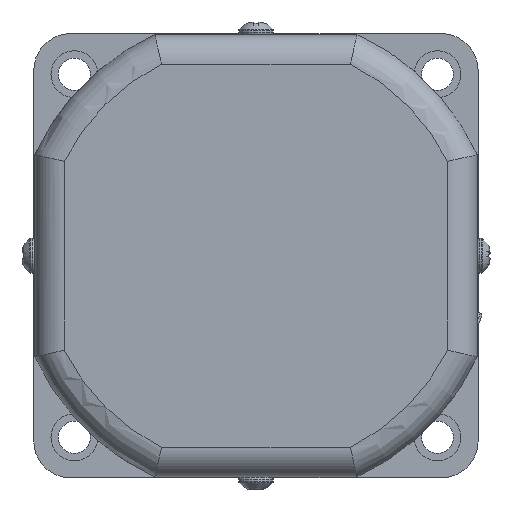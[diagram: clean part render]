
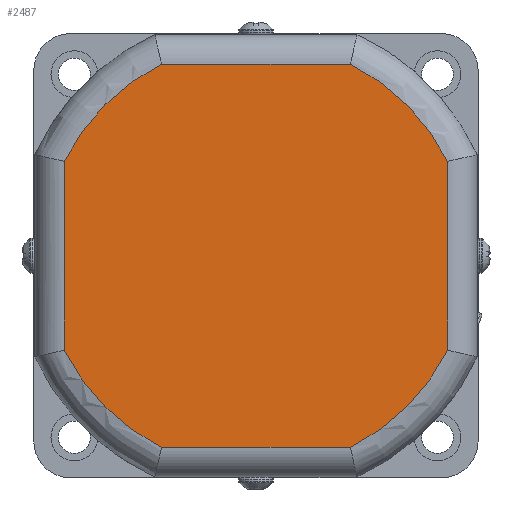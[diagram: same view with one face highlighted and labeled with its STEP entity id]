
A CAD part, left-side view. The second image highlights one B-rep face of the part: STEP entity #2487.
In plain terms, the highlighted planar face has unit normal (-1, 0, 0).
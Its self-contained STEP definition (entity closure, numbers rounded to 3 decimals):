
#2000=CARTESIAN_POINT('',(-23.,-19.108,-38.8));
#2001=VERTEX_POINT('',#2000);
#2028=CARTESIAN_POINT('',(-23.,-38.8,-19.108));
#2029=VERTEX_POINT('',#2028);
#2047=CARTESIAN_POINT('',(-23.,0.,0.));
#2048=DIRECTION('',(1.,0.,0.));
#2049=DIRECTION('',(0.,-0.707,-0.707));
#2050=AXIS2_PLACEMENT_3D('',#2047,#2048,#2049);
#2051=CIRCLE('',#2050,43.25);
#2052=EDGE_CURVE('',#2029,#2001,#2051,.T.);
#2064=CARTESIAN_POINT('',(-23.,-38.8,19.108));
#2065=VERTEX_POINT('',#2064);
#2083=CARTESIAN_POINT('',(-23.,-38.8,19.108));
#2084=DIRECTION('',(0.0,0.0,-1.0));
#2085=VECTOR('',#2084,38.216);
#2086=LINE('',#2083,#2085);
#2087=EDGE_CURVE('',#2065,#2029,#2086,.T.);
#2106=CARTESIAN_POINT('',(-23.,19.108,-38.8));
#2107=VERTEX_POINT('',#2106);
#2132=CARTESIAN_POINT('',(-23.,-19.108,-38.8));
#2133=DIRECTION('',(0.0,1.0,0.0));
#2134=VECTOR('',#2133,38.216);
#2135=LINE('',#2132,#2134);
#2136=EDGE_CURVE('',#2001,#2107,#2135,.T.);
#2148=CARTESIAN_POINT('',(-23.,-19.108,38.8));
#2149=VERTEX_POINT('',#2148);
#2167=CARTESIAN_POINT('',(-23.,0.,0.));
#2168=DIRECTION('',(1.,0.,0.));
#2169=DIRECTION('',(0.,-0.707,0.707));
#2170=AXIS2_PLACEMENT_3D('',#2167,#2168,#2169);
#2171=CIRCLE('',#2170,43.25);
#2172=EDGE_CURVE('',#2149,#2065,#2171,.T.);
#2192=CARTESIAN_POINT('',(-23.,38.8,-19.108));
#2193=VERTEX_POINT('',#2192);
#2219=CARTESIAN_POINT('',(-23.,0.,0.));
#2220=DIRECTION('',(1.0,0.,0.));
#2221=DIRECTION('',(0.,0.707,-0.707));
#2222=AXIS2_PLACEMENT_3D('',#2219,#2220,#2221);
#2223=CIRCLE('',#2222,43.25);
#2224=EDGE_CURVE('',#2107,#2193,#2223,.T.);
#2236=CARTESIAN_POINT('',(-23.,19.108,38.8));
#2237=VERTEX_POINT('',#2236);
#2255=CARTESIAN_POINT('',(-23.,19.108,38.8));
#2256=DIRECTION('',(0.0,-1.0,0.0));
#2257=VECTOR('',#2256,38.216);
#2258=LINE('',#2255,#2257);
#2259=EDGE_CURVE('',#2237,#2149,#2258,.T.);
#2276=CARTESIAN_POINT('',(-23.,38.8,19.108));
#2277=VERTEX_POINT('',#2276);
#2304=CARTESIAN_POINT('',(-23.,38.8,-19.108));
#2305=DIRECTION('',(0.0,0.0,1.0));
#2306=VECTOR('',#2305,38.216);
#2307=LINE('',#2304,#2306);
#2308=EDGE_CURVE('',#2193,#2277,#2307,.T.);
#2319=CARTESIAN_POINT('',(-23.,0.,0.));
#2320=DIRECTION('',(1.0,0.,0.));
#2321=DIRECTION('',(0.,0.707,0.707));
#2322=AXIS2_PLACEMENT_3D('',#2319,#2320,#2321);
#2323=CIRCLE('',#2322,43.25);
#2324=EDGE_CURVE('',#2277,#2237,#2323,.T.);
#2472=CARTESIAN_POINT('',(-23.,0.,0.));
#2473=DIRECTION('',(1.0,0.0,0.0));
#2474=DIRECTION('',(0.0,0.0,-1.0));
#2475=AXIS2_PLACEMENT_3D('',#2472,#2473,#2474);
#2476=PLANE('',#2475);
#2477=ORIENTED_EDGE('',*,*,#2308,.F.);
#2478=ORIENTED_EDGE('',*,*,#2224,.F.);
#2479=ORIENTED_EDGE('',*,*,#2136,.F.);
#2480=ORIENTED_EDGE('',*,*,#2052,.F.);
#2481=ORIENTED_EDGE('',*,*,#2087,.F.);
#2482=ORIENTED_EDGE('',*,*,#2172,.F.);
#2483=ORIENTED_EDGE('',*,*,#2259,.F.);
#2484=ORIENTED_EDGE('',*,*,#2324,.F.);
#2485=EDGE_LOOP('',(#2477,#2478,#2479,#2480,#2481,#2482,#2483,#2484));
#2486=FACE_OUTER_BOUND('',#2485,.T.);
#2487=ADVANCED_FACE('',(#2486),#2476,.F.);
